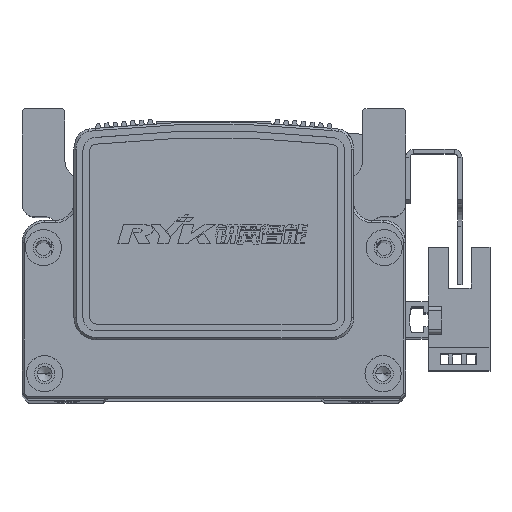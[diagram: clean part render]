
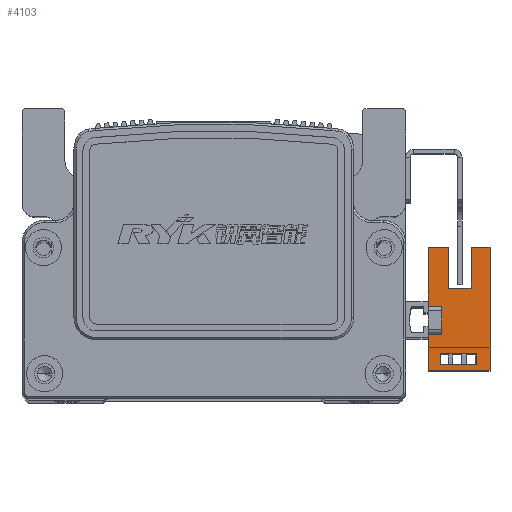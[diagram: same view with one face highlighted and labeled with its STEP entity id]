
A CAD part, top view. The second image highlights one B-rep face of the part: STEP entity #4103.
In plain terms, the highlighted planar face has unit normal (0, 0, 1) as drawn and (1, 0, 0) by its records, which use the part's own axes.
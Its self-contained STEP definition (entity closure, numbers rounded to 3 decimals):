
#537 = VECTOR ( 'NONE', #12038, 1000. ) ;
#864 = ORIENTED_EDGE ( 'NONE', *, *, #13607, .T. ) ;
#871 = ORIENTED_EDGE ( 'NONE', *, *, #43100, .F. ) ;
#883 = ORIENTED_EDGE ( 'NONE', *, *, #13505, .F. ) ;
#889 = ORIENTED_EDGE ( 'NONE', *, *, #13507, .T. ) ;
#892 = ORIENTED_EDGE ( 'NONE', *, *, #13610, .T. ) ;
#896 = ORIENTED_EDGE ( 'NONE', *, *, #13829, .F. ) ;
#921 = ORIENTED_EDGE ( 'NONE', *, *, #13570, .F. ) ;
#922 = ORIENTED_EDGE ( 'NONE', *, *, #13691, .T. ) ;
#927 = ORIENTED_EDGE ( 'NONE', *, *, #13672, .F. ) ;
#932 = ORIENTED_EDGE ( 'NONE', *, *, #43075, .F. ) ;
#951 = ORIENTED_EDGE ( 'NONE', *, *, #13734, .F. ) ;
#961 = ORIENTED_EDGE ( 'NONE', *, *, #13621, .F. ) ;
#969 = ORIENTED_EDGE ( 'NONE', *, *, #13748, .T. ) ;
#970 = ORIENTED_EDGE ( 'NONE', *, *, #13826, .F. ) ;
#972 = ORIENTED_EDGE ( 'NONE', *, *, #13711, .F. ) ;
#977 = ORIENTED_EDGE ( 'NONE', *, *, #43092, .T. ) ;
#4103 = ADVANCED_FACE ( 'NONE', ( #42585, #42664 ), #30176, .T. ) ;
#5130 = VERTEX_POINT ( 'NONE', #28511 ) ;
#5136 = VERTEX_POINT ( 'NONE', #28550 ) ;
#5146 = VERTEX_POINT ( 'NONE', #28530 ) ;
#5153 = VERTEX_POINT ( 'NONE', #28551 ) ;
#5158 = VERTEX_POINT ( 'NONE', #28531 ) ;
#5173 = VERTEX_POINT ( 'NONE', #28567 ) ;
#5181 = VERTEX_POINT ( 'NONE', #28625 ) ;
#5210 = VERTEX_POINT ( 'NONE', #28655 ) ;
#5213 = VERTEX_POINT ( 'NONE', #28579 ) ;
#5222 = VERTEX_POINT ( 'NONE', #28635 ) ;
#5223 = VERTEX_POINT ( 'NONE', #28603 ) ;
#5227 = VERTEX_POINT ( 'NONE', #28613 ) ;
#5243 = VERTEX_POINT ( 'NONE', #28632 ) ;
#5246 = VERTEX_POINT ( 'NONE', #25623 ) ;
#5288 = VERTEX_POINT ( 'NONE', #25615 ) ;
#5289 = VERTEX_POINT ( 'NONE', #25658 ) ;
#7232 = CARTESIAN_POINT ( 'NONE',  ( 3.2, 16.1, 3. ) ) ;
#7237 = DIRECTION ( 'NONE',  ( 0., 1., 0. ) ) ;
#7266 = CARTESIAN_POINT ( 'NONE',  ( 3.2, 16.1, -10.7 ) ) ;
#7287 = CARTESIAN_POINT ( 'NONE',  ( 3.2, 16.1, 3. ) ) ;
#7292 = DIRECTION ( 'NONE',  ( 0., 0., 1. ) ) ;
#7333 = DIRECTION ( 'NONE',  ( 0., 1., 0. ) ) ;
#7384 = LINE ( 'NONE', #12044, #537 ) ;
#9294 = CARTESIAN_POINT ( 'NONE',  ( 3.2, 7.1, -6.5 ) ) ;
#9300 = CARTESIAN_POINT ( 'NONE',  ( 3.2, 16.1, 0.3 ) ) ;
#9324 = DIRECTION ( 'NONE',  ( 0., -1., 0. ) ) ;
#9341 = DIRECTION ( 'NONE',  ( 0., 0., 1. ) ) ;
#9351 = CARTESIAN_POINT ( 'NONE',  ( 3.2, -9.83, -10.7 ) ) ;
#9353 = DIRECTION ( 'NONE',  ( 0., 1., 0. ) ) ;
#9362 = DIRECTION ( 'NONE',  ( 0., 0., -1. ) ) ;
#9370 = DIRECTION ( 'NONE',  ( 0., 1., 0. ) ) ;
#9376 = CARTESIAN_POINT ( 'NONE',  ( 3.2, 16.1, -10.7 ) ) ;
#9380 = CARTESIAN_POINT ( 'NONE',  ( 3.2, 16.1, -7.7 ) ) ;
#9436 = CARTESIAN_POINT ( 'NONE',  ( 3.2, -7.33, -10.7 ) ) ;
#9446 = DIRECTION ( 'NONE',  ( 0., 0., -1. ) ) ;
#9457 = CARTESIAN_POINT ( 'NONE',  ( 3.2, -3.1, 3. ) ) ;
#9474 = DIRECTION ( 'NONE',  ( 0., 0., 1. ) ) ;
#11966 = CARTESIAN_POINT ( 'NONE',  ( 3.2, 3.1, 3. ) ) ;
#12003 = DIRECTION ( 'NONE',  ( 0., 0., 1. ) ) ;
#12038 = DIRECTION ( 'NONE',  ( 0., 1., 0. ) ) ;
#12044 = CARTESIAN_POINT ( 'NONE',  ( 3.2, 25.1, -1.5 ) ) ;
#12057 = CARTESIAN_POINT ( 'NONE',  ( 3.2, 0., 0. ) ) ;
#12071 = DIRECTION ( 'NONE',  ( 0., 1., 0. ) ) ;
#12138 = CARTESIAN_POINT ( 'NONE',  ( 3.2, 25.1, -6.5 ) ) ;
#12164 = CARTESIAN_POINT ( 'NONE',  ( 3.2, 16.1, -10.7 ) ) ;
#12172 = DIRECTION ( 'NONE',  ( 0., -1., 0. ) ) ;
#12208 = DIRECTION ( 'NONE',  ( 0., 0., 1. ) ) ;
#12214 = CARTESIAN_POINT ( 'NONE',  ( 3.2, -11.1, 3. ) ) ;
#12222 = DIRECTION ( 'NONE',  ( 0., 0., 1. ) ) ;
#13505 = EDGE_CURVE ( 'NONE', #5222, #5181, #17342, .T. ) ;
#13507 = EDGE_CURVE ( 'NONE', #5289, #5227, #7384, .T. ) ;
#13570 = EDGE_CURVE ( 'NONE', #5223, #5222, #32931, .T. ) ;
#13607 = EDGE_CURVE ( 'NONE', #5130, #5246, #33007, .T. ) ;
#13610 = EDGE_CURVE ( 'NONE', #5227, #5173, #32979, .T. ) ;
#13621 = EDGE_CURVE ( 'NONE', #5288, #5136, #32990, .T. ) ;
#13672 = EDGE_CURVE ( 'NONE', #5158, #5243, #33025, .T. ) ;
#13691 = EDGE_CURVE ( 'NONE', #5246, #5289, #32970, .T. ) ;
#13711 = EDGE_CURVE ( 'NONE', #5243, #5213, #33065, .T. ) ;
#13734 = EDGE_CURVE ( 'NONE', #5213, #5210, #33056, .T. ) ;
#13748 = EDGE_CURVE ( 'NONE', #5288, #5146, #33062, .T. ) ;
#13826 = EDGE_CURVE ( 'NONE', #5210, #5158, #33147, .T. ) ;
#13829 = EDGE_CURVE ( 'NONE', #5153, #5223, #33100, .T. ) ;
#17342 = LINE ( 'NONE', #11966, #36306 ) ;
#18889 = EDGE_LOOP ( 'NONE', ( #864, #922, #889, #892, #871, #883, #921, #896, #932, #961, #969, #977 ) ) ;
#18920 = EDGE_LOOP ( 'NONE', ( #927, #970, #951, #972 ) ) ;
#25615 = CARTESIAN_POINT ( 'NONE',  ( 3.2, -11.1, -10.7 ) ) ;
#25623 = CARTESIAN_POINT ( 'NONE',  ( 3.2, 7.1, -6.5 ) ) ;
#25658 = CARTESIAN_POINT ( 'NONE',  ( 3.2, 7.1, -1.5 ) ) ;
#28511 = CARTESIAN_POINT ( 'NONE',  ( 3.2, 16.1, -6.5 ) ) ;
#28530 = CARTESIAN_POINT ( 'NONE',  ( 3.2, 16.1, -10.7 ) ) ;
#28531 = CARTESIAN_POINT ( 'NONE',  ( 3.2, -7.33, 0.3 ) ) ;
#28550 = CARTESIAN_POINT ( 'NONE',  ( 3.2, -11.1, 3. ) ) ;
#28551 = CARTESIAN_POINT ( 'NONE',  ( 3.2, -3.1, 3. ) ) ;
#28567 = CARTESIAN_POINT ( 'NONE',  ( 3.2, 16.1, 3. ) ) ;
#28579 = CARTESIAN_POINT ( 'NONE',  ( 3.2, -9.83, -7.7 ) ) ;
#28603 = CARTESIAN_POINT ( 'NONE',  ( 3.2, -3.1, 0. ) ) ;
#28613 = CARTESIAN_POINT ( 'NONE',  ( 3.2, 16.1, -1.5 ) ) ;
#28625 = CARTESIAN_POINT ( 'NONE',  ( 3.2, 3.1, 3. ) ) ;
#28632 = CARTESIAN_POINT ( 'NONE',  ( 3.2, -9.83, 0.3 ) ) ;
#28635 = CARTESIAN_POINT ( 'NONE',  ( 3.2, 3.1, 0. ) ) ;
#28655 = CARTESIAN_POINT ( 'NONE',  ( 3.2, -7.33, -7.7 ) ) ;
#30170 = CARTESIAN_POINT ( 'NONE',  ( 3.2, 16.1, -10.7 ) ) ;
#30174 = DIRECTION ( 'NONE',  ( 1., 0., 0. ) ) ;
#30176 = PLANE ( 'NONE',  #34529 ) ;
#30180 = DIRECTION ( 'NONE',  ( 0., 1., 0. ) ) ;
#32912 = VECTOR ( 'NONE', #12071, 1000. ) ;
#32931 = LINE ( 'NONE', #12057, #32912 ) ;
#32970 = LINE ( 'NONE', #9294, #32971 ) ;
#32971 = VECTOR ( 'NONE', #9341, 1000. ) ;
#32979 = LINE ( 'NONE', #12164, #33006 ) ;
#32990 = LINE ( 'NONE', #12214, #32997 ) ;
#32997 = VECTOR ( 'NONE', #12208, 1000. ) ;
#33006 = VECTOR ( 'NONE', #12222, 1000. ) ;
#33007 = LINE ( 'NONE', #12138, #33022 ) ;
#33018 = VECTOR ( 'NONE', #9324, 1000. ) ;
#33022 = VECTOR ( 'NONE', #12172, 1000. ) ;
#33025 = LINE ( 'NONE', #9300, #33018 ) ;
#33041 = VECTOR ( 'NONE', #9353, 1000. ) ;
#33046 = VECTOR ( 'NONE', #9370, 1000. ) ;
#33056 = LINE ( 'NONE', #9380, #33041 ) ;
#33062 = LINE ( 'NONE', #9376, #33046 ) ;
#33065 = LINE ( 'NONE', #9351, #33078 ) ;
#33078 = VECTOR ( 'NONE', #9362, 1000. ) ;
#33100 = LINE ( 'NONE', #9457, #33118 ) ;
#33103 = VECTOR ( 'NONE', #9474, 1000. ) ;
#33118 = VECTOR ( 'NONE', #9446, 1000. ) ;
#33147 = LINE ( 'NONE', #9436, #33103 ) ;
#34529 = AXIS2_PLACEMENT_3D ( 'NONE', #30170, #30174, #30180 ) ;
#36306 = VECTOR ( 'NONE', #12003, 1000. ) ;
#38236 = VECTOR ( 'NONE', #7237, 1000. ) ;
#38276 = LINE ( 'NONE', #7232, #38236 ) ;
#38294 = LINE ( 'NONE', #7287, #38324 ) ;
#38321 = VECTOR ( 'NONE', #7292, 1000. ) ;
#38324 = VECTOR ( 'NONE', #7333, 1000. ) ;
#38345 = LINE ( 'NONE', #7266, #38321 ) ;
#42585 = FACE_OUTER_BOUND ( 'NONE', #18889, .T. ) ;
#42664 = FACE_BOUND ( 'NONE', #18920, .T. ) ;
#43075 = EDGE_CURVE ( 'NONE', #5136, #5153, #38276, .T. ) ;
#43092 = EDGE_CURVE ( 'NONE', #5146, #5130, #38345, .T. ) ;
#43100 = EDGE_CURVE ( 'NONE', #5181, #5173, #38294, .T. ) ;
